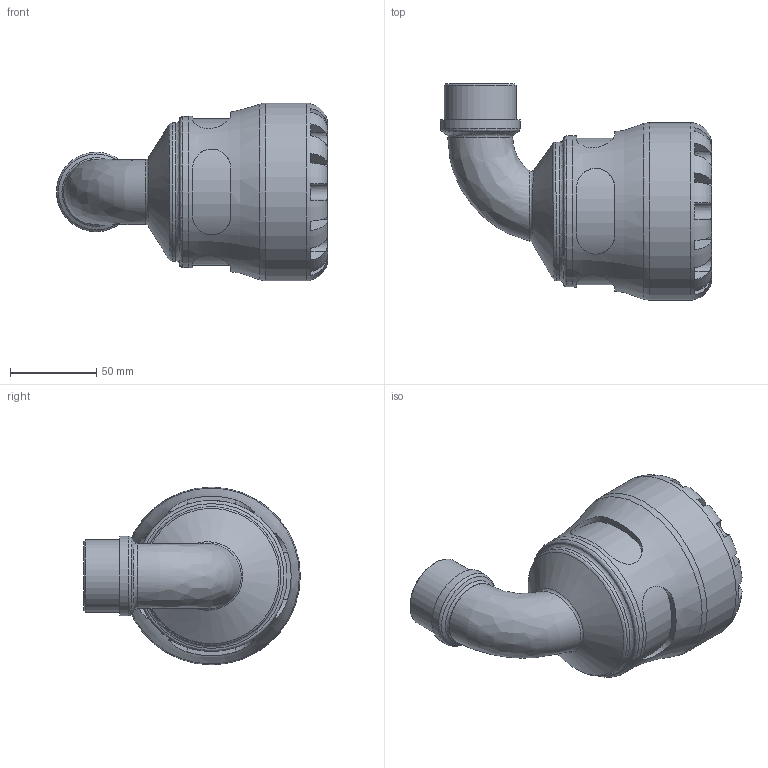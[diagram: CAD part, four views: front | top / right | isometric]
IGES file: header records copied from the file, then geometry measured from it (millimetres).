
Global section: file name: 107700063013_197700063013.ipt; native system: Autodesk Inventor 2015; preprocessor: unknown; author: KIM; date: 20170122.115514; units: millimetre
Bounding box: 157.05 x 125.5 x 103 mm (x, y, z)
Volume: 430096.5 mm3; surface area: 81334.8 mm2
Topology: 1 solids, 1 shells, 112 faces, 288 edges, 183 vertices
Faces by surface type: plane 60, revolution 28, cylinder 18, bspline 4, cone 2
Full cylindrical faces by diameter (mm): 37.719 x1, 41.91 x1, 46.101 x1, 80.34 x1, 87.55 x1, 103 x1
